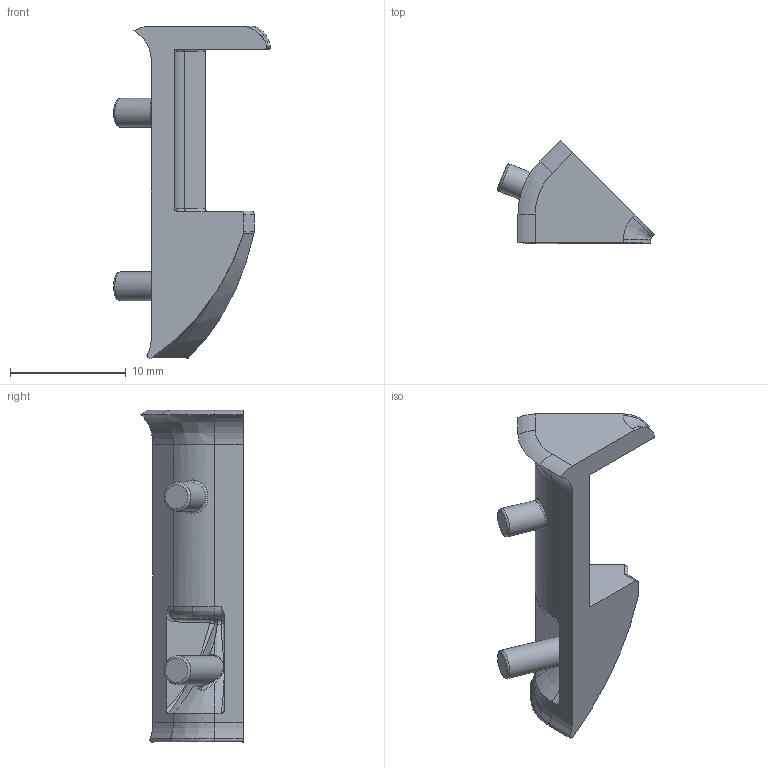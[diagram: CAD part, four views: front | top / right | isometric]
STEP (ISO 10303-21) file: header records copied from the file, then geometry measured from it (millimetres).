
FILE_DESCRIPTION (( 'STEP AP214' ), '1' );
FILE_NAME ('L15872.step', '2024-12-03T16:20:26', ( '' ), ( '' ), 'SwSTEP 2.0', 'SolidWorks 2023', '' );
FILE_SCHEMA (( 'AUTOMOTIVE_DESIGN' ));
Length unit declared in the file: millimetre
Products named in the file (1): L15872
Bounding box: 13.57 x 8.87 x 28.7 mm (x, y, z)
Volume: 717.1 mm3; surface area: 941.1 mm2
Topology: 1 solids, 1 shells, 81 faces, 212 edges, 132 vertices
Faces by surface type: cylinder 35, bspline 28, plane 18
Full cylindrical faces by diameter (mm): 2.5 x2
Entity records: 4054 total; most frequent: CARTESIAN_POINT 2299, ORIENTED_EDGE 402, DIRECTION 308, EDGE_CURVE 201, VERTEX_POINT 128, AXIS2_PLACEMENT_3D 117, EDGE_LOOP 87, FACE_OUTER_BOUND 86
